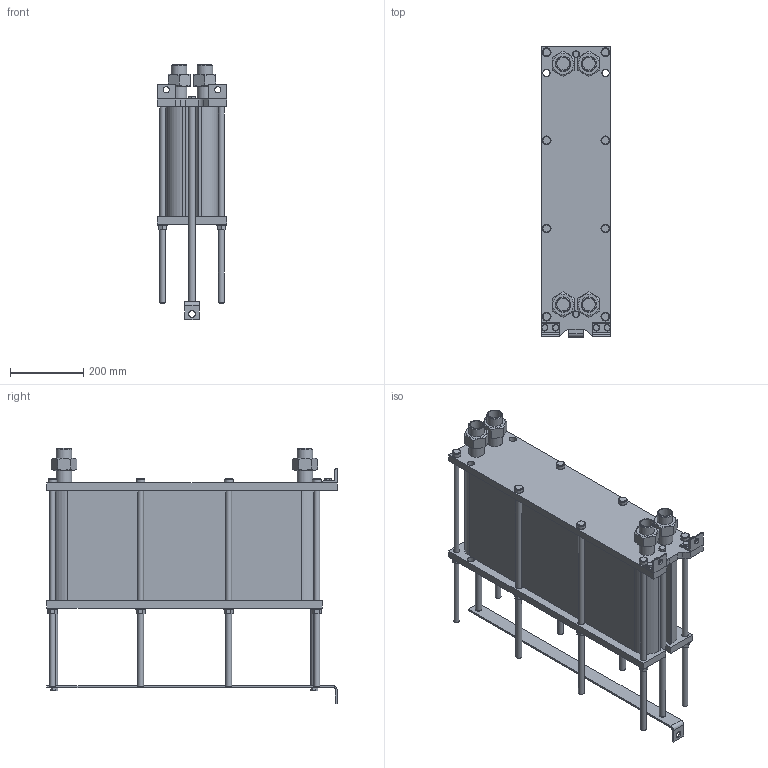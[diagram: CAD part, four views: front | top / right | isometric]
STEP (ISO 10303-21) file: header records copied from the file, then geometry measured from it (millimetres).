
FILE_DESCRIPTION(/* description */ (''),/* implementation_level */ '2;1');
FILE_NAME(/* name */ 'C:\Users\zhuro\Desktop\ENCO\TO\ЭН-008\ЭН-0,5-008-97-1.stp',/* time_stamp */ '2022-06-06T10:54:28+03:00',/* author */ ('zhuro'),/* organization */ (''),/* preprocessor_version */ 'ST-DEVELOPER v18.1',/* originating_system */ 'Autodesk Inventor 2022',/* authorisation */ '');
FILE_SCHEMA (('AUTOMOTIVE_DESIGN { 1 0 10303 214 3 1 1 }'));
Length unit declared in the file: millimetre
Products named in the file (1): ЭН-0,5-008-97-1
Bounding box: 190 x 790 x 694.6 mm (x, y, z)
Volume: 37610486.7 mm3; surface area: 1996148.3 mm2
Topology: 40 solids, 40 shells, 428 faces, 924 edges, 606 vertices
Faces by surface type: plane 273, cylinder 109, cone 40, torus 6
Full cylindrical faces by diameter (mm): 12 x6, 14 x2, 16 x20, 17 x8, 18 x19, 20 x5, 24 x8, 28 x8, 34.3 x8, 42.3 x8
Entity records: 15843 total; most frequent: CARTESIAN_POINT 5991, DIRECTION 1984, ORIENTED_EDGE 1848, EDGE_CURVE 924, AXIS2_PLACEMENT_3D 715, VERTEX_POINT 606, LINE 554, VECTOR 554
